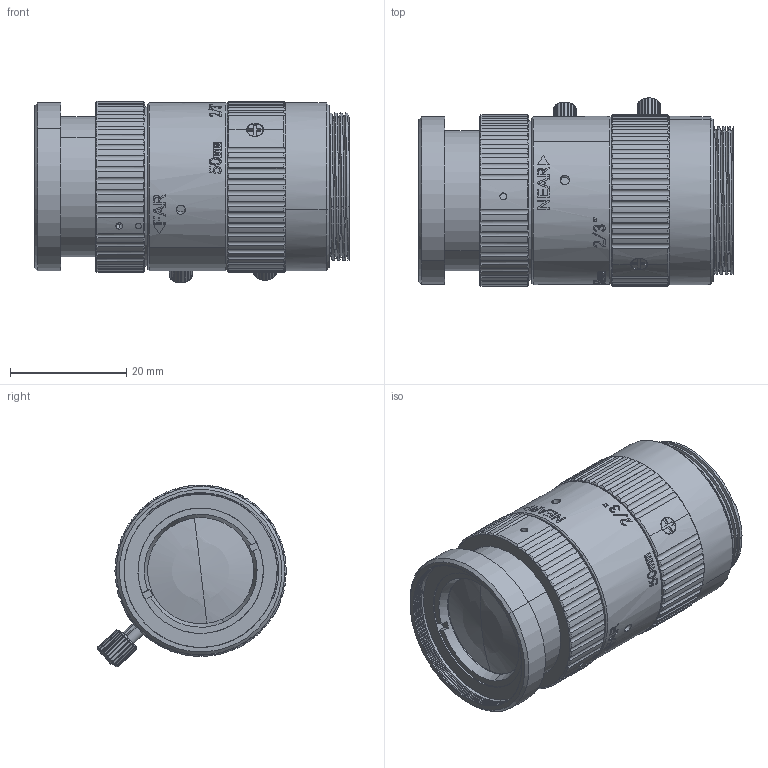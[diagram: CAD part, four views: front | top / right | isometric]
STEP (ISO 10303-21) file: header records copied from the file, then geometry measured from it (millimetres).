
FILE_DESCRIPTION (( 'STEP AP203' ), '1' );
FILE_NAME ('FAU5028MC.HR-H-輪扜擒---.STEP', '2025-11-04T08:35:11', ( '' ), ( '' ), 'SwSTEP 2.0', 'SolidWorks 2019', '' );
FILE_SCHEMA (( 'CONFIG_CONTROL_DESIGN' ));
Length unit declared in the file: millimetre
Products named in the file (1): FAU5028MC.HR-H-輪扜擒---
Bounding box: 54.2 x 32.48 x 31.32 mm (x, y, z)
Volume: 29456.7 mm3; surface area: 13399 mm2
Topology: 1 solids, 7 shells, 1076 faces, 2864 edges, 1871 vertices
Faces by surface type: cylinder 408, plane 372, bspline 158, cone 132, sphere 6
Entity records: 51624 total; most frequent: CARTESIAN_POINT 26667, ORIENTED_EDGE 5716, DIRECTION 4464, EDGE_CURVE 2858, VERTEX_POINT 1869, AXIS2_PLACEMENT_3D 1826, EDGE_LOOP 1173, B_SPLINE_CURVE_WITH_KNOTS 1106
